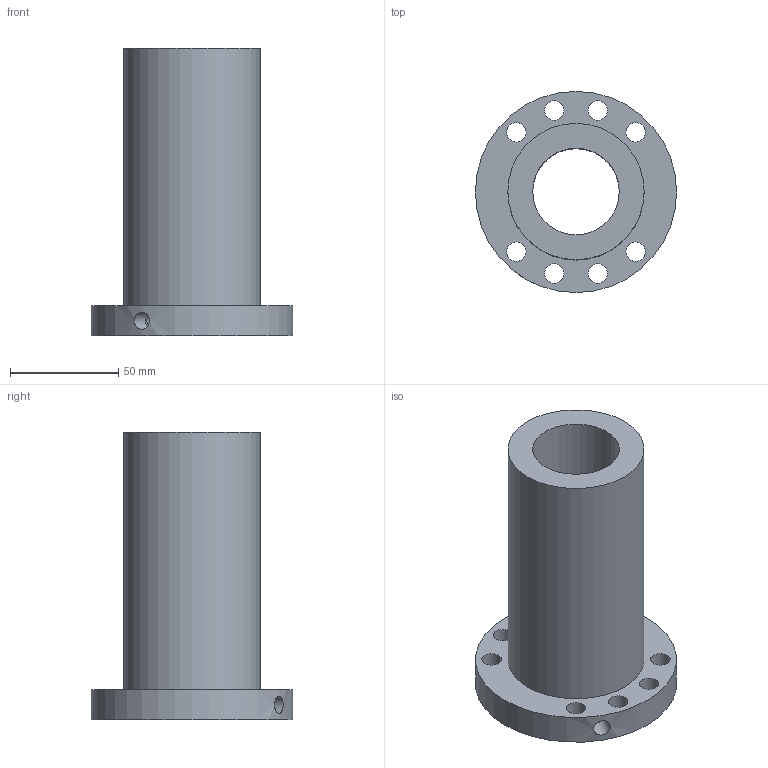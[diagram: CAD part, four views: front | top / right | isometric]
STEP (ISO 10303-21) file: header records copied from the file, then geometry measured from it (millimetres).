
FILE_DESCRIPTION(/* description */ (''),/* implementation_level */ '2;1');
FILE_NAME(/* name */ '40-8K5_4763',/* time_stamp */ '2007-10-15T12:53:56+08:00',/* author */ (''),/* organization */ (''),/* preprocessor_version */ 'ST-DEVELOPER v11',/* originating_system */ 'UGS - NX 5.0',/* authorisation */ '');
FILE_SCHEMA (('CONFIG_CONTROL_DESIGN'));
Length unit declared in the file: millimetre
Products named in the file (1): 40-8K5_4763
Bounding box: 93 x 93 x 133 mm (x, y, z)
Volume: 290826.8 mm3; surface area: 58083.2 mm2
Topology: 1 solids, 1 shells, 17 faces, 40 edges, 27 vertices
Faces by surface type: cylinder 13, plane 4
Full cylindrical faces by diameter (mm): 6 x1, 8 x1, 9 x8, 40 x1, 63 x1, 93 x1
Entity records: 668 total; most frequent: CARTESIAN_POINT 184, DIRECTION 84, FACE_BOUND 52, EDGE_LOOP 52, ORIENTED_EDGE 52, AXIS2_PLACEMENT_3D 42, VERTEX_POINT 26, EDGE_CURVE 26
